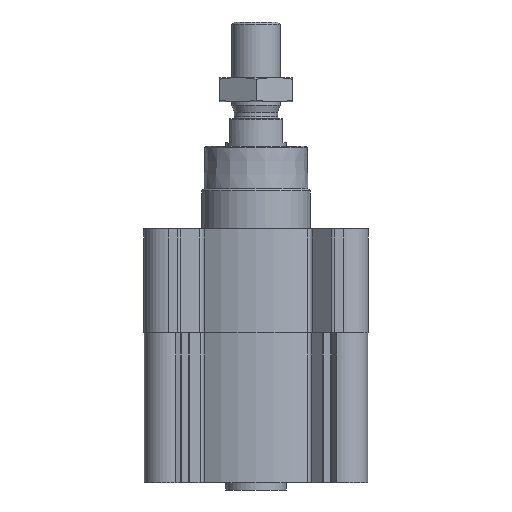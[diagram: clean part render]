
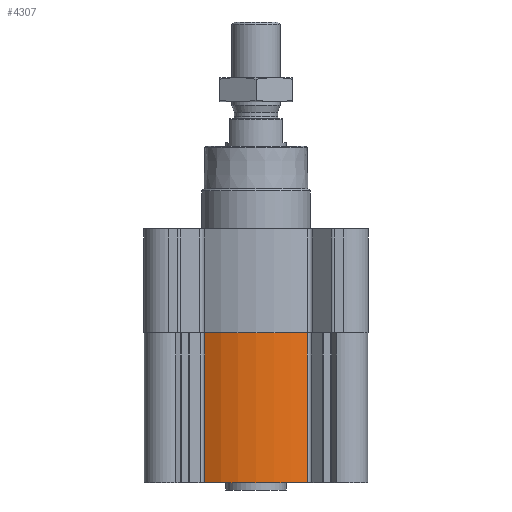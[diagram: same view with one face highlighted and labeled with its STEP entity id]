
A CAD part, front view. The second image highlights one B-rep face of the part: STEP entity #4307.
In plain terms, the highlighted cylindrical face has radius 43 mm (diameter 86 mm), a partial arc.
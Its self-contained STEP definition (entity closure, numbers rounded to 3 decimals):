
#344 = EDGE_CURVE ( 'NONE', #3162, #7177, #8083, .T. ) ;
#1030 = EDGE_CURVE ( 'NONE', #3176, #3202, #4855, .T. ) ;
#1391 = DIRECTION ( 'NONE',  ( 0., 0., 1. ) ) ;
#1884 = AXIS2_PLACEMENT_3D ( 'NONE', #10097, #9190, #9133 ) ;
#2286 = ORIENTED_EDGE ( 'NONE', *, *, #1030, .F. ) ;
#2477 = CIRCLE ( 'NONE', #7684, 43. ) ;
#2636 = CARTESIAN_POINT ( 'NONE',  ( 21.298, -37.355, -135. ) ) ;
#2979 = CARTESIAN_POINT ( 'NONE',  ( -21.298, -37.355, -105. ) ) ;
#3162 = VERTEX_POINT ( 'NONE', #6488 ) ;
#3176 = VERTEX_POINT ( 'NONE', #2979 ) ;
#3202 = VERTEX_POINT ( 'NONE', #4732 ) ;
#3383 = ORIENTED_EDGE ( 'NONE', *, *, #344, .T. ) ;
#3423 = DIRECTION ( 'NONE',  ( 1., 0., 0. ) ) ;
#3482 = CARTESIAN_POINT ( 'NONE',  ( 0., 0., -43. ) ) ;
#3903 = EDGE_CURVE ( 'NONE', #3176, #3162, #9600, .T. ) ;
#4307 = ADVANCED_FACE ( 'NONE', ( #6872 ), #7595, .T. ) ;
#4449 = EDGE_CURVE ( 'NONE', #3202, #7177, #2477, .T. ) ;
#4732 = CARTESIAN_POINT ( 'NONE',  ( -21.298, -37.355, -43. ) ) ;
#4855 = LINE ( 'NONE', #8672, #4926 ) ;
#4926 = VECTOR ( 'NONE', #4973, 1000. ) ;
#4973 = DIRECTION ( 'NONE',  ( 0., 0., 1. ) ) ;
#6488 = CARTESIAN_POINT ( 'NONE',  ( 21.298, -37.355, -105. ) ) ;
#6872 = FACE_OUTER_BOUND ( 'NONE', #6984, .T. ) ;
#6933 = DIRECTION ( 'NONE',  ( 0., 0., 1. ) ) ;
#6984 = EDGE_LOOP ( 'NONE', ( #2286, #11443, #3383, #8163 ) ) ;
#7177 = VERTEX_POINT ( 'NONE', #10183 ) ;
#7593 = VECTOR ( 'NONE', #1391, 1000. ) ;
#7595 = CYLINDRICAL_SURFACE ( 'NONE', #8322, 43. ) ;
#7684 = AXIS2_PLACEMENT_3D ( 'NONE', #3482, #6933, #3423 ) ;
#8083 = LINE ( 'NONE', #2636, #7593 ) ;
#8163 = ORIENTED_EDGE ( 'NONE', *, *, #4449, .F. ) ;
#8322 = AXIS2_PLACEMENT_3D ( 'NONE', #10492, #10436, #10316 ) ;
#8672 = CARTESIAN_POINT ( 'NONE',  ( -21.298, -37.355, -135. ) ) ;
#9133 = DIRECTION ( 'NONE',  ( -1., 0., 0. ) ) ;
#9190 = DIRECTION ( 'NONE',  ( 0., 0., 1. ) ) ;
#9600 = CIRCLE ( 'NONE', #1884, 43. ) ;
#10097 = CARTESIAN_POINT ( 'NONE',  ( 0., 0., -105. ) ) ;
#10183 = CARTESIAN_POINT ( 'NONE',  ( 21.298, -37.355, -43. ) ) ;
#10316 = DIRECTION ( 'NONE',  ( 1., 0., 0. ) ) ;
#10436 = DIRECTION ( 'NONE',  ( 0., 0., 1. ) ) ;
#10492 = CARTESIAN_POINT ( 'NONE',  ( 0., 0., -135. ) ) ;
#11443 = ORIENTED_EDGE ( 'NONE', *, *, #3903, .T. ) ;
